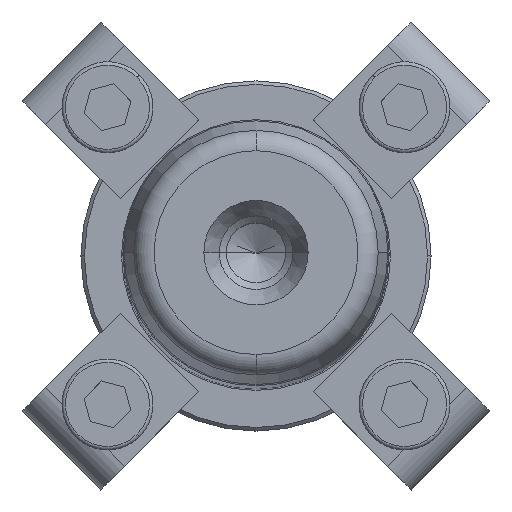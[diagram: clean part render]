
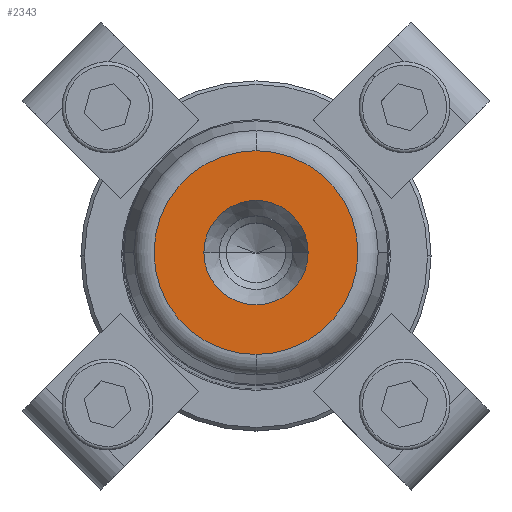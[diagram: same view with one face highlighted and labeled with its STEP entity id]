
A CAD part, top view. The second image highlights one B-rep face of the part: STEP entity #2343.
In plain terms, the highlighted planar face has unit normal (0, 0, 1).
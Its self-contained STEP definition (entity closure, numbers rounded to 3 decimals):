
#431=CARTESIAN_POINT('',(7.45,0.,280.0));
#432=VERTEX_POINT('',#431);
#439=CARTESIAN_POINT('',(-7.45,0.,280.0));
#440=VERTEX_POINT('',#439);
#441=CARTESIAN_POINT('',(0.0,0.,280.0));
#442=DIRECTION('',(0.0,0.0,1.0));
#443=DIRECTION('',(1.0,0.0,0.0));
#444=AXIS2_PLACEMENT_3D('',#441,#442,#443);
#445=CIRCLE('',#444,7.45);
#446=EDGE_CURVE('',#432,#440,#445,.T.);
#463=CARTESIAN_POINT('',(0.0,-14.554,280.0));
#464=VERTEX_POINT('',#463);
#474=CARTESIAN_POINT('',(0.,14.554,280.0));
#475=VERTEX_POINT('',#474);
#476=CARTESIAN_POINT('',(0.0,0.,280.0));
#477=DIRECTION('',(0.0,0.0,1.0));
#478=DIRECTION('',(1.0,0.0,0.0));
#479=AXIS2_PLACEMENT_3D('',#476,#477,#478);
#480=CIRCLE('',#479,14.554);
#481=EDGE_CURVE('',#475,#464,#480,.T.);
#2304=CARTESIAN_POINT('',(14.554,0.,280.0));
#2305=VERTEX_POINT('',#2304);
#2306=CARTESIAN_POINT('',(0.0,0.,280.0));
#2307=DIRECTION('',(0.0,0.0,1.0));
#2308=DIRECTION('',(1.0,0.0,0.0));
#2309=AXIS2_PLACEMENT_3D('',#2306,#2307,#2308);
#2310=CIRCLE('',#2309,14.554);
#2311=EDGE_CURVE('',#2305,#475,#2310,.T.);
#2313=CARTESIAN_POINT('',(0.0,0.,280.0));
#2314=DIRECTION('',(0.0,0.0,1.0));
#2315=DIRECTION('',(1.0,0.0,0.0));
#2316=AXIS2_PLACEMENT_3D('',#2313,#2314,#2315);
#2317=CIRCLE('',#2316,14.554);
#2318=EDGE_CURVE('',#464,#2305,#2317,.T.);
#2323=CARTESIAN_POINT('',(11.002,0.,280.0));
#2324=DIRECTION('',(0.0,0.0,1.0));
#2325=DIRECTION('',(0.0,-1.0,0.0));
#2326=AXIS2_PLACEMENT_3D('',#2323,#2324,#2325);
#2327=PLANE('',#2326);
#2328=ORIENTED_EDGE('',*,*,#2311,.T.);
#2329=ORIENTED_EDGE('',*,*,#481,.T.);
#2330=ORIENTED_EDGE('',*,*,#2318,.T.);
#2331=EDGE_LOOP('',(#2328,#2329,#2330));
#2332=FACE_OUTER_BOUND('',#2331,.T.);
#2333=ORIENTED_EDGE('',*,*,#446,.F.);
#2334=CARTESIAN_POINT('',(0.0,0.,280.0));
#2335=DIRECTION('',(0.0,0.0,1.0));
#2336=DIRECTION('',(1.0,0.0,0.0));
#2337=AXIS2_PLACEMENT_3D('',#2334,#2335,#2336);
#2338=CIRCLE('',#2337,7.45);
#2339=EDGE_CURVE('',#440,#432,#2338,.T.);
#2340=ORIENTED_EDGE('',*,*,#2339,.F.);
#2341=EDGE_LOOP('',(#2333,#2340));
#2342=FACE_BOUND('',#2341,.T.);
#2343=ADVANCED_FACE('',(#2332,#2342),#2327,.T.);
